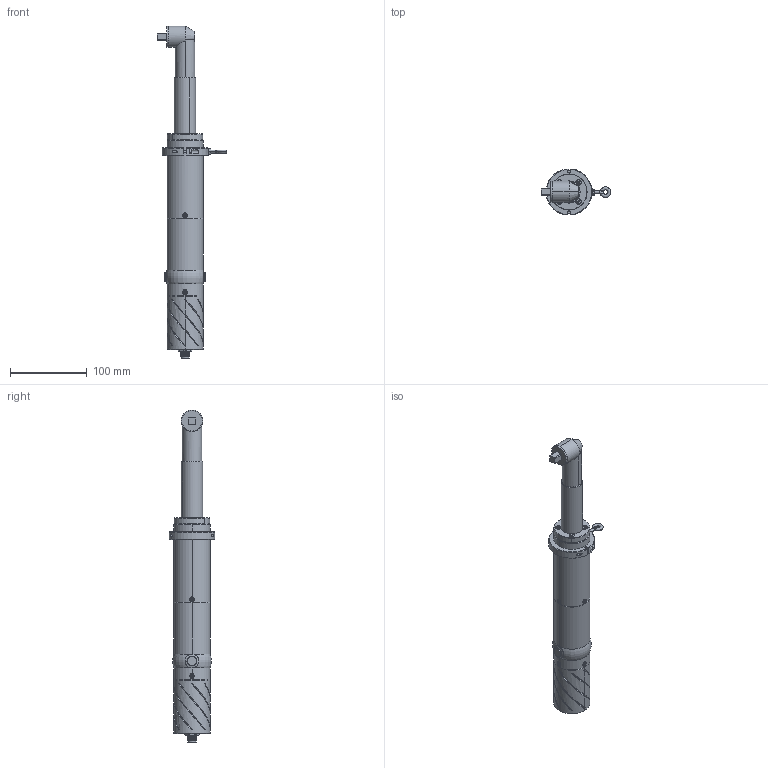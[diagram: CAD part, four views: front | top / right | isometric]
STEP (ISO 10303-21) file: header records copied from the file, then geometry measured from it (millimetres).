
FILE_DESCRIPTION (( 'STEP AP214' ), '1' );
FILE_NAME ('Pluto 20ANG-SR.STEP', '2013-06-04T07:05:04', ( '' ), ( '' ), 'SwSTEP 2.0', 'SolidWorks 2013', '' );
FILE_SCHEMA (( 'AUTOMOTIVE_DESIGN' ));
Length unit declared in the file: millimetre
Products named in the file (1): Pluto 20ANG-SR
Bounding box: 90.85 x 59.94 x 432.9 mm (x, y, z)
Volume: 246522.9 mm3; surface area: 128715.7 mm2
Topology: 28 solids, 28 shells, 938 faces, 2279 edges, 1414 vertices
Faces by surface type: cylinder 425, plane 288, cone 122, torus 52, bspline 51
Entity records: 53088 total; most frequent: CARTESIAN_POINT 20743, DIRECTION 4632, ORIENTED_EDGE 4498, EDGE_CURVE 2249, AXIS2_PLACEMENT_3D 1867, VERTEX_POINT 1414, EDGE_LOOP 1061, CIRCLE 979
